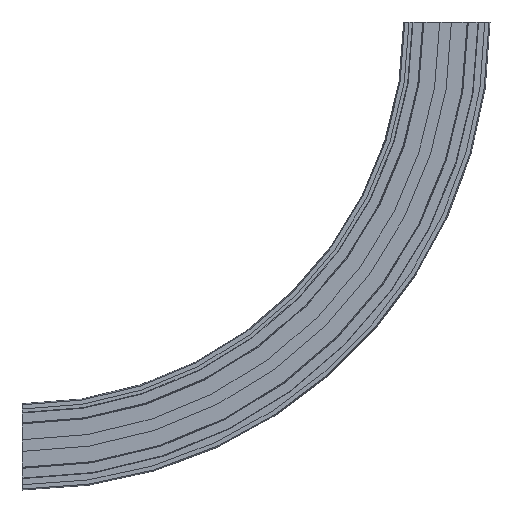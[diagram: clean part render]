
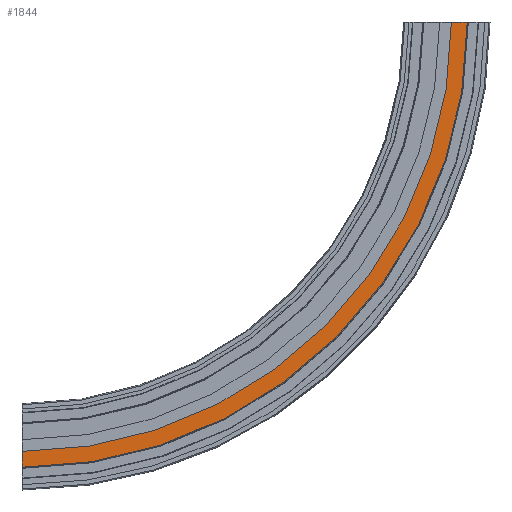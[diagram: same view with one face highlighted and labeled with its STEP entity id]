
A CAD part, front view. The second image highlights one B-rep face of the part: STEP entity #1844.
In plain terms, the highlighted planar face has unit normal (0, -1, 0).
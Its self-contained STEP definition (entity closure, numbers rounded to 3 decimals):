
#1786=CARTESIAN_POINT('',(420.5,-43.0,360.5));
#1787=VERTEX_POINT('',#1786);
#1794=CARTESIAN_POINT('',(0.0,-43.0,-60.));
#1795=VERTEX_POINT('',#1794);
#1796=CARTESIAN_POINT('',(0.,-43.0,360.5));
#1797=DIRECTION('',(0.0,-1.0,0.0));
#1798=DIRECTION('',(-1.0,0.0,0.0));
#1799=AXIS2_PLACEMENT_3D('',#1796,#1797,#1798);
#1800=CIRCLE('',#1799,420.5);
#1801=EDGE_CURVE('',#1795,#1787,#1800,.T.);
#1813=CARTESIAN_POINT('',(0.0,-43.0,-52.5));
#1814=DIRECTION('',(0.0,-1.0,0.0));
#1815=DIRECTION('',(0.0,0.0,-1.0));
#1816=AXIS2_PLACEMENT_3D('',#1813,#1814,#1815);
#1817=PLANE('',#1816);
#1818=CARTESIAN_POINT('',(405.5,-43.0,360.5));
#1819=VERTEX_POINT('',#1818);
#1820=CARTESIAN_POINT('',(420.5,-43.0,360.5));
#1821=DIRECTION('',(-1.0,0.0,0.0));
#1822=VECTOR('',#1821,15.);
#1823=LINE('',#1820,#1822);
#1824=EDGE_CURVE('',#1787,#1819,#1823,.T.);
#1825=ORIENTED_EDGE('',*,*,#1824,.T.);
#1826=CARTESIAN_POINT('',(0.0,-43.0,-45.));
#1827=VERTEX_POINT('',#1826);
#1828=CARTESIAN_POINT('',(0.,-43.0,360.5));
#1829=DIRECTION('',(0.0,-1.0,0.0));
#1830=DIRECTION('',(-1.0,0.0,0.0));
#1831=AXIS2_PLACEMENT_3D('',#1828,#1829,#1830);
#1832=CIRCLE('',#1831,405.5);
#1833=EDGE_CURVE('',#1827,#1819,#1832,.T.);
#1834=ORIENTED_EDGE('',*,*,#1833,.F.);
#1835=CARTESIAN_POINT('',(0.0,-43.0,-45.));
#1836=DIRECTION('',(0.0,0.0,-1.0));
#1837=VECTOR('',#1836,15.0);
#1838=LINE('',#1835,#1837);
#1839=EDGE_CURVE('',#1827,#1795,#1838,.T.);
#1840=ORIENTED_EDGE('',*,*,#1839,.T.);
#1841=ORIENTED_EDGE('',*,*,#1801,.T.);
#1842=EDGE_LOOP('',(#1825,#1834,#1840,#1841));
#1843=FACE_OUTER_BOUND('',#1842,.T.);
#1844=ADVANCED_FACE('',(#1843),#1817,.T.);
